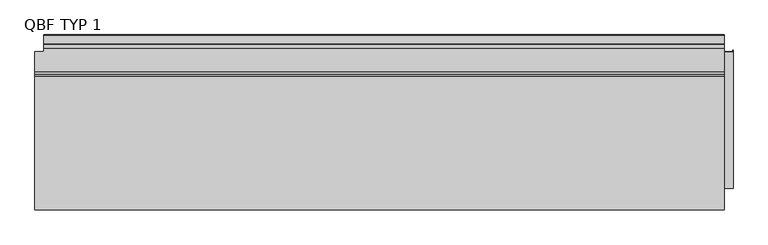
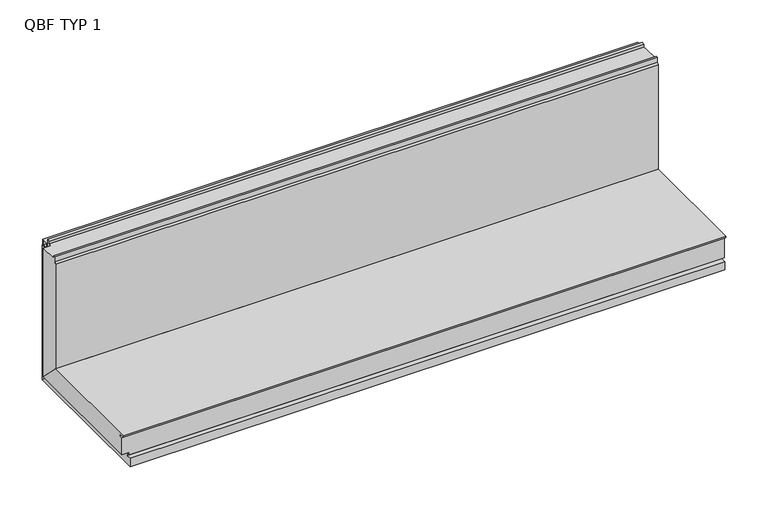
"""IFC4 building model written with IfcOpenShell, lengths in millimetres: plate geometry, TR_C_H_QBISS_Corner_Long_B : QBF TYP 1."""

import ifcopenshell
import ifcopenshell.guid

model = None  # the IFC model being written
_history = None  # IfcOwnerHistory: only IFC2X3 demands one
_inside = {}  # id of a spatial element -> (the spatial element, [elements in it])
_under = {}  # id of a project, library or spatial element -> (it, [spatial elements below it])
_declared = {}  # id of a project -> (the project, [libraries it declares])
_typed = {}  # id of a type object -> (the type object, [elements of that type])
_made_of = {}  # id of a material, layer set ... -> (it, [elements and type objects made of it])


def new_model(schema):
    """Start an empty IFC model of exactly this schema.

    Asked for "IFC4X3", IfcOpenShell would pick the latest addendum, in which some entities
    have other attributes; the version numbers below select the first issue.
    IFC2X3 requires an IfcOwnerHistory on every rooted entity: one is made here for all.
    """
    global model, _history
    if schema == "IFC4X3":
        model = ifcopenshell.file(schema_version=(4, 3, 0, 0))
    else:
        model = ifcopenshell.file(schema=schema)
    _inside.clear()
    _under.clear()
    _declared.clear()
    _typed.clear()
    _made_of.clear()
    _history = None
    if model.schema == "IFC2X3":
        org = make("IfcOrganization", Name="unknown")
        user = make(
            "IfcPersonAndOrganization",
            ThePerson=make("IfcPerson", FamilyName="unknown"),
            TheOrganization=org,
        )
        app = make(
            "IfcApplication",
            ApplicationDeveloper=org,
            Version="unknown",
            ApplicationFullName="unknown",
            ApplicationIdentifier="unknown",
        )
        _history = make(
            "IfcOwnerHistory",
            OwningUser=user,
            OwningApplication=app,
            ChangeAction="ADDED",
            CreationDate=0,
        )
    return model


def make(cls, **values):
    """One entity of the class cls with the attributes given. An attribute that is None is left unset."""
    return model.create_entity(
        cls, **{name: value for name, value in values.items() if value is not None}
    )


def rooted(cls, **values):
    """An entity with a GlobalId (a new one), such as an element, a storey or a relation."""
    return make(cls, GlobalId=ifcopenshell.guid.new(), OwnerHistory=_history, **values)


def si_unit(unit_type, name, prefix=None):
    """IfcSIUnit, for example si_unit("LENGTHUNIT", "METRE", prefix="MILLI")."""
    return make("IfcSIUnit", UnitType=unit_type, Prefix=prefix, Name=name)


def assignment(units):
    """IfcUnitAssignment: the units of a project."""
    return None if units is None else make("IfcUnitAssignment", Units=units)


def point(xyz):
    """IfcCartesianPoint."""
    return None if xyz is None else make("IfcCartesianPoint", Coordinates=xyz)


def direction(xyz):
    """IfcDirection."""
    return None if xyz is None else make("IfcDirection", DirectionRatios=xyz)


def frame(location, z_axis=None, x_axis=None):
    """IfcAxis2Placement3D, a coordinate frame: its origin and axes. An axis left out is left unset."""
    return make(
        "IfcAxis2Placement3D",
        Location=point(location),
        Axis=direction(z_axis),
        RefDirection=direction(x_axis),
    )


def origin():
    """The frame at (0, 0, 0) with its axes left unset."""
    return frame((0.0, 0.0, 0.0))


def place(relative_to, where):
    """IfcLocalPlacement: puts the frame where relative to a parent placement (None: the world)."""
    return make(
        "IfcLocalPlacement", PlacementRelTo=relative_to, RelativePlacement=where
    )


def context(
    kind, dimensions, precision=None, world=None, true_north=None, identifier=None
):
    """IfcGeometricRepresentationContext, for example the 3D "Model" context."""
    return make(
        "IfcGeometricRepresentationContext",
        ContextIdentifier=identifier,
        ContextType=kind,
        CoordinateSpaceDimension=dimensions,
        Precision=precision,
        WorldCoordinateSystem=world,
        TrueNorth=true_north,
    )


def project(units=None, contexts=None):
    """IfcProject with its units and contexts."""
    return rooted(
        "IfcProject",
        Name="project",
        RepresentationContexts=contexts,
        UnitsInContext=assignment(units),
    )


def spatial(cls, under=None, at=None, **own):
    """A site, building, storey or space (cls), placed at a placement, below another one or the project."""
    s = rooted(cls, ObjectPlacement=at, **own)
    if under is not None:
        _under.setdefault(under.id(), (under, []))[1].append(s)
    return s


def polyline(points):
    """IfcPolyline through the points."""
    return make("IfcPolyline", Points=[point(p) for p in points])


def outline(outer, holes=None, kind="AREA"):
    """IfcArbitraryClosedProfileDef: a profile drawn as a closed curve; with holes, ...WithVoids."""
    if holes is None:
        return make("IfcArbitraryClosedProfileDef", ProfileType=kind, OuterCurve=outer)
    return make(
        "IfcArbitraryProfileDefWithVoids",
        ProfileType=kind,
        OuterCurve=outer,
        InnerCurves=holes,
    )


def extrude(swept, where, along, depth):
    """IfcExtrudedAreaSolid: the profile swept, set in the frame where, extruded along a direction by depth."""
    return make(
        "IfcExtrudedAreaSolid",
        SweptArea=swept,
        Position=where,
        ExtrudedDirection=direction(along),
        Depth=depth,
    )


def faces_of(points, faces, orient=None, outer=None):
    """IfcFace entities. A face is a list of loops; a loop is a list of indices into points, from 0.

    orient and outer hold one flag for each loop. By default every Orientation is true, the
    first loop of a face is its IfcFaceOuterBound and the others are IfcFaceBound.
    """
    made = []
    for i, loops in enumerate(faces):
        bounds = []
        for j, loop in enumerate(loops):
            is_outer = j == 0 if outer is None else outer[i][j]
            bounds.append(
                make(
                    "IfcFaceOuterBound" if is_outer else "IfcFaceBound",
                    Bound=make("IfcPolyLoop", Polygon=[points[k] for k in loop]),
                    Orientation=True if orient is None else orient[i][j],
                )
            )
        made.append(make("IfcFace", Bounds=bounds))
    return made


def faceted_brep(points, faces, orient=None, outer=None, voids=None):
    """IfcFacetedBrep: a solid bounded by flat faces; with voids (closed shells), ...WithVoids."""
    shared = [point(p) for p in points]
    hull = make("IfcClosedShell", CfsFaces=faces_of(shared, faces, orient, outer))
    if voids is None:
        return make("IfcFacetedBrep", Outer=hull)
    return make(
        "IfcFacetedBrepWithVoids",
        Outer=hull,
        Voids=[
            make(cls, CfsFaces=faces_of(shared, fs, o, b)) for cls, fs, o, b in voids
        ],
    )


def shape(context_of_items, identifier, shape_type, items):
    """IfcShapeRepresentation: the items that make up one representation, for example the "Body"."""
    return make(
        "IfcShapeRepresentation",
        ContextOfItems=context_of_items,
        RepresentationIdentifier=identifier,
        RepresentationType=shape_type,
        Items=items,
    )


def source(mapping_origin, context_of_items, identifier, shape_type, items):
    """IfcRepresentationMap: a shape defined once, which mapped items show again and again."""
    return make(
        "IfcRepresentationMap",
        MappingOrigin=mapping_origin,
        MappedRepresentation=shape(context_of_items, identifier, shape_type, items),
    )


def transform(
    local_origin,
    x_axis=None,
    y_axis=None,
    z_axis=None,
    scale=None,
    scale2=None,
    scale3=None,
    uniform=True,
):
    """IfcCartesianTransformationOperator3D, or its non-uniform kind. x_axis, y_axis, z_axis: its Axis1, 2, 3."""
    if uniform:
        return make(
            "IfcCartesianTransformationOperator3D",
            Axis1=direction(x_axis),
            Axis2=direction(y_axis),
            LocalOrigin=point(local_origin),
            Scale=scale,
            Axis3=direction(z_axis),
        )
    return make(
        "IfcCartesianTransformationOperator3DnonUniform",
        Axis1=direction(x_axis),
        Axis2=direction(y_axis),
        LocalOrigin=point(local_origin),
        Scale=scale,
        Axis3=direction(z_axis),
        Scale2=scale2,
        Scale3=scale3,
    )


def mapped(mapping_source, mapping_target):
    """IfcMappedItem: shows the shape of a source again, moved by a transform."""
    return make(
        "IfcMappedItem", MappingSource=mapping_source, MappingTarget=mapping_target
    )


def made_of(thing, what):
    """Note that an element or type object is made of a material, layer set ...; save() writes the relation."""
    if what is not None:
        _made_of.setdefault(what.id(), (what, []))[1].append(thing)
    return thing


def element(
    cls,
    number,
    at=None,
    inside=None,
    cuts=None,
    type_object=None,
    material=None,
    context=None,
    identifier="Body",
    shape_type=None,
    held_by="IfcProductDefinitionShape",
    body=None,
    shapes=None,
    **own,
):
    """One element of the class cls, such as IfcWall. Its Tag is "e" and its number.

    at: its placement. inside: the storey or other place that contains it. cuts: it is an
    opening in that element (IfcRelVoidsElement). A single representation is given by context,
    identifier, shape_type and body (its items); several are given by shapes. held_by: the class
    of the entity that holds the representations. save() writes the other relations.
    """
    e = rooted(cls, Tag="e%d" % number, ObjectPlacement=at, **own)
    if body is not None:
        shapes = [shape(context, identifier, shape_type, body)]
    if shapes is not None:
        e.Representation = make(held_by, Representations=shapes)
    if inside is not None:
        _inside.setdefault(inside.id(), (inside, []))[1].append(e)
    if cuts is not None:
        rooted(
            "IfcRelVoidsElement", RelatingBuildingElement=cuts, RelatedOpeningElement=e
        )
    if type_object is not None:
        _typed.setdefault(type_object.id(), (type_object, []))[1].append(e)
    return made_of(e, material)


def aggregate(whole, parts):
    """IfcRelAggregates: a whole, such as a stair, and the parts it consists of."""
    return rooted("IfcRelAggregates", RelatingObject=whole, RelatedObjects=parts)


def save(model, path):
    """Write the relations noted so far, then the file.

    IfcRelAggregates (storeys below a building ...), IfcRelContainedInSpatialStructure (elements
    in a storey), IfcRelDefinesByType, IfcRelAssociatesMaterial and IfcRelDeclares: one each for
    every whole, place, type object, material and project.
    """
    for whole, parts in _under.values():
        aggregate(whole, parts)
    for where, things in _inside.values():
        rooted(
            "IfcRelContainedInSpatialStructure",
            RelatedElements=things,
            RelatingStructure=where,
        )
    for kind, things in _typed.values():
        rooted("IfcRelDefinesByType", RelatedObjects=things, RelatingType=kind)
    for what, things in _made_of.values():
        rooted("IfcRelAssociatesMaterial", RelatedObjects=things, RelatingMaterial=what)
    for by, libraries in _declared.values():
        rooted("IfcRelDeclares", RelatingContext=by, RelatedDefinitions=libraries)
    model.write(path)


def qbf_typ_1_a1c9edf7(model_context):
    return source(origin(), model_context, "Body", "SolidModel", [
        extrude(outline(polyline([(-27.9998293, 487.7023593), (-24.4998428, 487.7023593), (-24.4998428, 476.0), (-4.4998615, 476.0), (-4.4998615, 493.0), (-24.4998428, 493.0), (-24.4998428, 488.5023593), (-25.9998428, 488.5023593), (-25.9998428, 494.5), (-2.9971631, 494.5), (-2.9971631, 474.5), (-25.9998428, 474.5), (-25.9998428, 481.2976407), (-27.9998293, 481.2976407), (-27.9998293, 480.4976407), (-28.7998428, 480.4976407), (-28.7998428, 488.5023593), (-27.9998293, 488.5023593), (-27.9998293, 487.7023593)])), frame((-987.3, 0.0, 0.0), z_axis=(1.0, 0.0, 0.0), x_axis=(0.0, 1.0, 0.0)), (0.0, 0.0, 1.0), 1974.6),
        faceted_brep([(987.5, -120.0, 120.0), (987.5, -508.0, 120.0), (987.5, -508.0, 114.0), (987.5, -487.0, 114.0), (987.5, -487.0, 108.0), (987.5, -500.0, 108.0), (987.5, -500.0, 49.0), (987.5, -49.0, 49.0), (-1012.4, -500.0, 108.0), (-1012.4, -487.0, 108.0), (-1012.4, -487.0, 114.0), (-1012.4, -508.0, 114.0), (-1012.4, -508.0, 120.0), (-1012.4, -120.0, 120.0), (-1012.4, -49.0, 49.0), (-1012.4, -500.0, 49.0), (987.3, -49.0, 49.0), (987.3, 0.0, 0.0), (-987.3, 0.0, 0.0), (-987.3, -49.0, 49.0), (-987.3, -500.0, 49.0), (-987.3, -500.0, 39.0), (987.3, -500.0, 39.0), (987.3, -500.0, 49.0), (-987.3, -487.0, 39.0), (987.3, -487.0, 39.0), (-987.3, -487.0, 29.0), (987.3, -487.0, 29.0), (-987.3, -504.0, 29.0), (987.3, -504.0, 29.0), (-987.3, -504.0, 0.0), (987.3, -504.0, 0.0), (987.3, -49.0, 0.0), (-987.3, -49.0, 0.0)], [[[0, 1, 2, 3, 4, 5, 6, 7]], [[8, 9, 10, 11, 12, 13, 14, 15]], [[13, 0, 7, 16, 17, 18, 19, 14]], [[1, 0, 13, 12]], [[2, 1, 12, 11]], [[3, 2, 11, 10]], [[4, 3, 10, 9]], [[5, 4, 9, 8]], [[5, 8, 15, 20, 21, 22, 23, 6]], [[22, 21, 24, 25]], [[25, 24, 26, 27]], [[27, 26, 28, 29]], [[29, 28, 30, 31]], [[18, 17, 32, 31, 30, 33]], [[20, 19, 18, 33, 30, 28, 26, 24, 21]], [[19, 20, 15, 14]], [[16, 23, 22, 25, 27, 29, 31, 32, 17]], [[23, 16, 7, 6]]]),
        faceted_brep([(987.5, -108.0, 500.0), (987.5, -108.0, 510.0), (987.5, -114.0, 510.0), (987.5, -114.0, 492.0), (987.5, -120.0, 486.0), (987.5, -120.0, 120.0), (987.5, -49.0, 49.0), (987.5, -49.0, 500.0), (-1012.4, -120.0, 120.0), (-1012.4, -120.0, 486.0), (-1012.4, -114.0, 492.0), (-1012.4, -114.0, 510.0), (-1012.4, -108.0, 510.0), (-1012.4, -108.0, 500.0), (-1012.4, -49.0, 500.0), (-1012.4, -49.0, 49.0), (987.3, 0.0, 473.0), (987.3, 0.0, 0.0), (-987.3, 0.0, 0.0), (-987.3, 0.0, 473.0), (987.3, -29.0, 473.0), (-987.3, -29.0, 473.0), (987.3, -29.0, 510.0), (-987.3, -29.0, 510.0), (987.3, -39.0, 510.0), (-987.3, -39.0, 510.0), (987.3, -39.0, 500.0), (-987.3, -39.0, 500.0), (987.3, -49.0, 500.0), (-987.3, -49.0, 500.0), (-987.3, -49.0, 49.0), (987.3, -49.0, 49.0)], [[[0, 1, 2, 3, 4, 5, 6, 7]], [[8, 9, 10, 11, 12, 13, 14, 15]], [[16, 17, 18, 19]], [[20, 16, 19, 21]], [[22, 20, 21, 23]], [[24, 22, 23, 25]], [[26, 24, 25, 27]], [[13, 0, 7, 28, 26, 27, 29, 14]], [[1, 0, 13, 12]], [[2, 1, 12, 11]], [[3, 2, 11, 10]], [[4, 3, 10, 9]], [[5, 4, 9, 8]], [[5, 8, 15, 30, 18, 17, 31, 6]], [[28, 31, 17, 16, 20, 22, 24, 26]], [[31, 28, 7, 6]], [[29, 30, 15, 14]], [[30, 29, 27, 25, 23, 21, 19, 18]]]),
        faceted_brep([(1012.5, -49.0, 416.0), (1012.5, -44.0, 416.0), (1011.7, -44.0, 416.0), (1011.7, -48.2, 416.0), (987.3, -48.2, 416.0), (987.3, -49.0, 416.0), (1012.5, -49.0, 49.0), (1012.5, -446.0, 49.0), (1012.5, -446.0, 44.0), (1012.5, -44.0, 44.0), (1011.7, -44.0, 44.0), (1011.7, -446.0, 44.0), (1011.7, -446.0, 48.2), (1011.7, -48.2, 48.2), (987.3, -48.2, 48.2), (987.3, -446.0, 48.2), (987.3, -446.0, 49.0), (987.3, -49.0, 49.0)], [[[0, 1, 2, 3, 4, 5]], [[1, 0, 6, 7, 8, 9]], [[2, 1, 9, 10]], [[3, 2, 10, 11, 12, 13]], [[4, 3, 13, 14]], [[5, 4, 14, 15, 16, 17]], [[0, 5, 17, 6]], [[7, 16, 15, 12, 11, 8]], [[10, 9, 8, 11]], [[14, 13, 12, 15]], [[6, 17, 16, 7]]]),
    ])


if __name__ == "__main__":
    model = new_model("IFC4")
    model_context = context("Model", 3, world=origin())
    ifc_project = project(units=[si_unit("LENGTHUNIT", "METRE", prefix="MILLI")], contexts=[model_context])
    site = spatial("IfcSite", under=ifc_project)
    building = spatial("IfcBuilding", under=site)
    placement = place(None, origin())
    qbf_typ_1_shape = qbf_typ_1_a1c9edf7(model_context)
    element("IfcPlate", 1, ObjectType="TR_C_H_QBISS_Corner_Long_B : QBF TYP 1", at=placement, inside=building, context=model_context, shape_type="MappedRepresentation", body=[
        mapped(qbf_typ_1_shape, transform((0.0, 0.0, 0.0), x_axis=(1.0, 0.0, 0.0), y_axis=(0.0, 1.0, 0.0), z_axis=(0.0, 0.0, 1.0))),
    ])
    save(model, "model.ifc")
